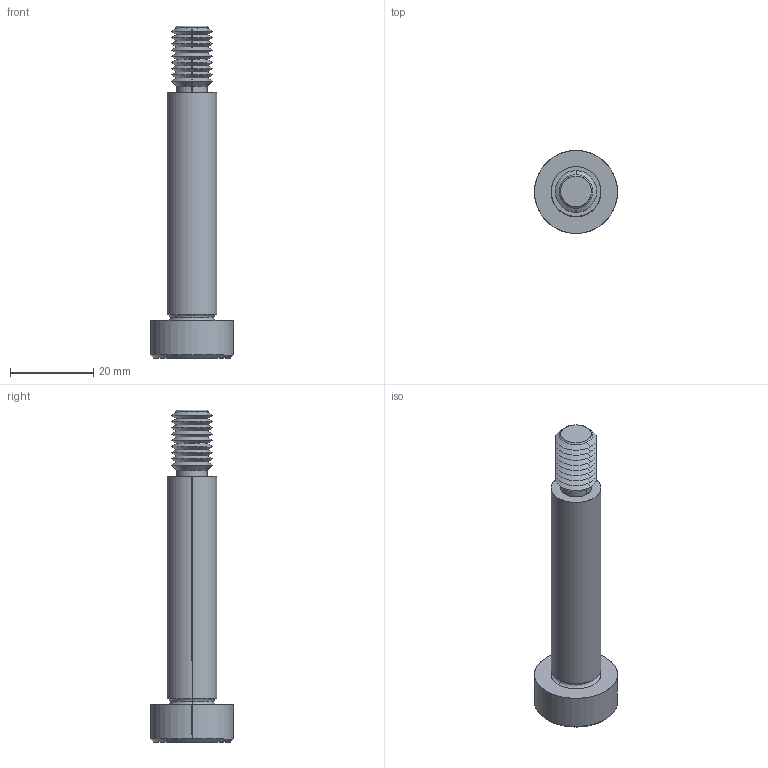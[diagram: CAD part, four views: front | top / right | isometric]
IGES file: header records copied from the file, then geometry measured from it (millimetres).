
Start section: SolidWorks IGES file using analytic representation for surfaces
Global section: file name: C:\Users\IanO\Documents\Temp Folder\GENERAL\SCREW REVISION\P0130_v2\P0130.T5_v2_20220106_IGES\P0130.120-055-T5.igs; native system: SolidWorks 2019; preprocessor: SolidWorks 2019; author: IanO; date: 220106.224935; units: millimetre
Bounding box: 20 x 20 x 80 mm (x, y, z)
Surface area: 4190.7 mm2 (no closed solid volume)
Topology: 0 solids, 0 shells, 76 faces, 564 edges, 562 vertices
Faces by surface type: revolution 56, bspline 20
